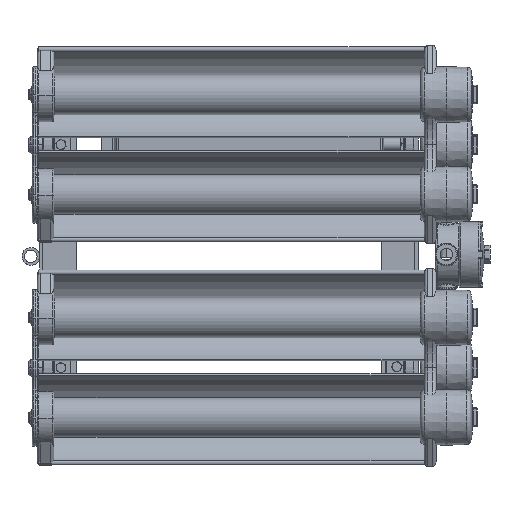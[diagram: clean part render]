
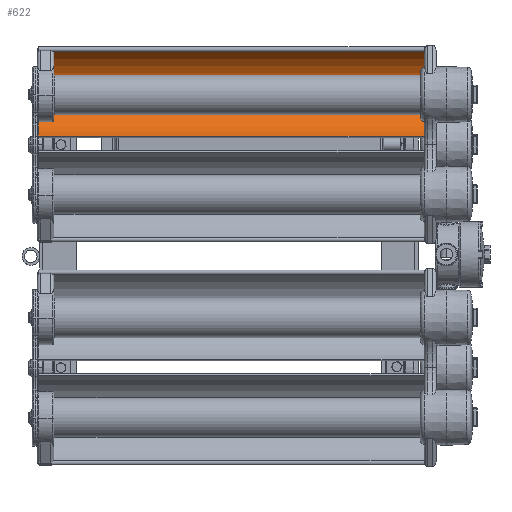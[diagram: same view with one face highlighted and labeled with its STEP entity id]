
A CAD part, front view. The second image highlights one B-rep face of the part: STEP entity #622.
In plain terms, the highlighted cylindrical face has radius 73.187 mm (diameter 146.374 mm), a partial arc.
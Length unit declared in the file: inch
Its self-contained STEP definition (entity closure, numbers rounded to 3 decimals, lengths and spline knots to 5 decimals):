
#164 = VERTEX_POINT ( 'NONE', #23556 ) ;
#622 = ADVANCED_FACE ( 'NONE', ( #6658 ), #46378, .F. ) ;
#2816 = AXIS2_PLACEMENT_3D ( 'NONE', #63702, #22356, #6778 ) ;
#4363 = DIRECTION ( 'NONE',  ( 1., 0., 0. ) ) ;
#6593 = ORIENTED_EDGE ( 'NONE', *, *, #13810, .F. ) ;
#6658 = FACE_OUTER_BOUND ( 'NONE', #39913, .T. ) ;
#6778 = DIRECTION ( 'NONE',  ( -1., 0., 0. ) ) ;
#8135 = DIRECTION ( 'NONE',  ( 0., 0., 1. ) ) ;
#11473 = VECTOR ( 'NONE', #31685, 39.37008 ) ;
#12580 = VERTEX_POINT ( 'NONE', #34920 ) ;
#12933 = EDGE_CURVE ( 'NONE', #164, #34220, #47760, .T. ) ;
#13810 = EDGE_CURVE ( 'NONE', #34287, #12580, #28958, .T. ) ;
#18589 = EDGE_CURVE ( 'NONE', #34220, #12580, #52848, .T. ) ;
#22356 = DIRECTION ( 'NONE',  ( 0., 0., -1. ) ) ;
#23556 = CARTESIAN_POINT ( 'NONE',  ( -8.41469, -4.81515, 5.89073 ) ) ;
#28958 = CIRCLE ( 'NONE', #57453, 2.88138 ) ;
#29277 = EDGE_CURVE ( 'NONE', #164, #34287, #61203, .T. ) ;
#29863 = CARTESIAN_POINT ( 'NONE',  ( -8.41469, -4.81515, 5.89073 ) ) ;
#31471 = CARTESIAN_POINT ( 'NONE',  ( -13.63863, -4.61584, 5.89073 ) ) ;
#31685 = DIRECTION ( 'NONE',  ( 0., 0., -1. ) ) ;
#32227 = ORIENTED_EDGE ( 'NONE', *, *, #18589, .T. ) ;
#34220 = VERTEX_POINT ( 'NONE', #59137 ) ;
#34287 = VERTEX_POINT ( 'NONE', #65008 ) ;
#34920 = CARTESIAN_POINT ( 'NONE',  ( -13.63863, -4.61584, -17.23427 ) ) ;
#35032 = DIRECTION ( 'NONE',  ( 0., 0., -1. ) ) ;
#35341 = DIRECTION ( 'NONE',  ( 0., 0., 1. ) ) ;
#39182 = CARTESIAN_POINT ( 'NONE',  ( -11.07288, -5.92706, 5.89073 ) ) ;
#39913 = EDGE_LOOP ( 'NONE', ( #6593, #43954, #49990, #32227 ) ) ;
#43954 = ORIENTED_EDGE ( 'NONE', *, *, #29277, .F. ) ;
#44441 = DIRECTION ( 'NONE',  ( 1., 0., 0. ) ) ;
#46378 = CYLINDRICAL_SURFACE ( 'NONE', #2816, 2.88138 ) ;
#47365 = VECTOR ( 'NONE', #35032, 39.37008 ) ;
#47760 = CIRCLE ( 'NONE', #48691, 2.88138 ) ;
#48691 = AXIS2_PLACEMENT_3D ( 'NONE', #39182, #8135, #44441 ) ;
#49990 = ORIENTED_EDGE ( 'NONE', *, *, #12933, .T. ) ;
#52848 = LINE ( 'NONE', #31471, #11473 ) ;
#57453 = AXIS2_PLACEMENT_3D ( 'NONE', #66473, #35341, #4363 ) ;
#59137 = CARTESIAN_POINT ( 'NONE',  ( -13.63863, -4.61584, 5.89073 ) ) ;
#61203 = LINE ( 'NONE', #29863, #47365 ) ;
#63702 = CARTESIAN_POINT ( 'NONE',  ( -11.07288, -5.92706, 5.89073 ) ) ;
#65008 = CARTESIAN_POINT ( 'NONE',  ( -8.41469, -4.81515, -17.23427 ) ) ;
#66473 = CARTESIAN_POINT ( 'NONE',  ( -11.07288, -5.92706, -17.23427 ) ) ;
